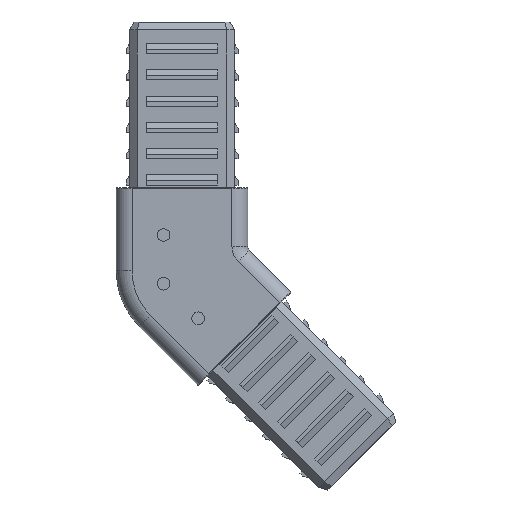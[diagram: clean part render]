
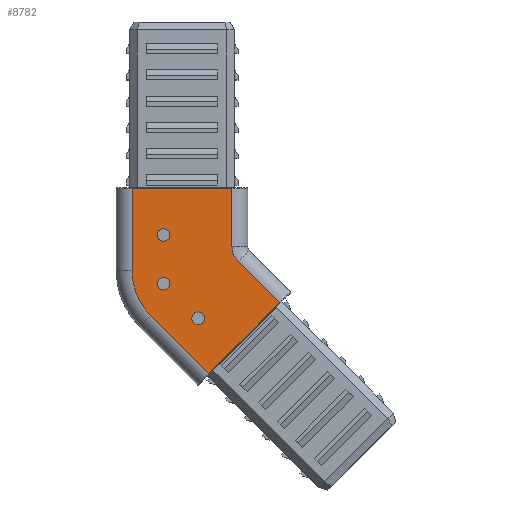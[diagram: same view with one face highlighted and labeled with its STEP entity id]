
A CAD part, top view. The second image highlights one B-rep face of the part: STEP entity #8782.
In plain terms, the highlighted planar face has unit normal (0, 0, 1).
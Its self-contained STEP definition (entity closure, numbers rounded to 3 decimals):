
#52 = EDGE_CURVE ( 'NONE', #4533, #11156, #8072, .T. ) ;
#82 = CARTESIAN_POINT ( 'NONE',  ( -3.5, -0.772, 12.5 ) ) ;
#84 = AXIS2_PLACEMENT_3D ( 'NONE', #9088, #10155, #9171 ) ;
#153 = CARTESIAN_POINT ( 'NONE',  ( 2.5, 1.713, 12.5 ) ) ;
#206 = CARTESIAN_POINT ( 'NONE',  ( 3.056, -7.328, 12.5 ) ) ;
#304 = DIRECTION ( 'NONE',  ( 0., -1., 0. ) ) ;
#419 = EDGE_CURVE ( 'NONE', #1189, #7091, #3990, .T. ) ;
#448 = DIRECTION ( 'NONE',  ( 0., 0., -1. ) ) ;
#513 = DIRECTION ( 'NONE',  ( -0.707, 0.707, 0. ) ) ;
#536 = CARTESIAN_POINT ( 'NONE',  ( -9.5, 17.35, 12.5 ) ) ;
#641 = DIRECTION ( 'NONE',  ( 0., 0., -1. ) ) ;
#813 = VERTEX_POINT ( 'NONE', #2867 ) ;
#826 = VERTEX_POINT ( 'NONE', #6850 ) ;
#910 = EDGE_LOOP ( 'NONE', ( #7392, #10054 ) ) ;
#957 = VECTOR ( 'NONE', #4983, 1000. ) ;
#1136 = FACE_BOUND ( 'NONE', #4755, .T. ) ;
#1189 = VERTEX_POINT ( 'NONE', #12219 ) ;
#1191 = CARTESIAN_POINT ( 'NONE',  ( -9.5, 0., 12.5 ) ) ;
#1192 = DIRECTION ( 'NONE',  ( 0., 0., 1. ) ) ;
#1323 = EDGE_CURVE ( 'NONE', #9034, #12252, #4389, .T. ) ;
#1386 = VECTOR ( 'NONE', #513, 1000. ) ;
#1462 = CARTESIAN_POINT ( 'NONE',  ( -2.3, -0.772, 12.5 ) ) ;
#1497 = AXIS2_PLACEMENT_3D ( 'NONE', #9986, #641, #9007 ) ;
#1562 = CIRCLE ( 'NONE', #3263, 1.2 ) ;
#1667 = ORIENTED_EDGE ( 'NONE', *, *, #3022, .F. ) ;
#1682 = AXIS2_PLACEMENT_3D ( 'NONE', #7840, #448, #9828 ) ;
#1803 = CIRCLE ( 'NONE', #4505, 12. ) ;
#1951 = CARTESIAN_POINT ( 'NONE',  ( 9.5, 0., 12.5 ) ) ;
#2093 = CIRCLE ( 'NONE', #84, 1.2 ) ;
#2134 = DIRECTION ( 'NONE',  ( -1., 0., 0. ) ) ;
#2154 = VECTOR ( 'NONE', #304, 1000. ) ;
#2339 = DIRECTION ( 'NONE',  ( 1., 0., 0. ) ) ;
#2384 = CARTESIAN_POINT ( 'NONE',  ( -4.7, -0.772, 12.5 ) ) ;
#2867 = CARTESIAN_POINT ( 'NONE',  ( 10.672, 3.441, 12.5 ) ) ;
#3022 = EDGE_CURVE ( 'NONE', #11156, #4533, #2093, .T. ) ;
#3263 = AXIS2_PLACEMENT_3D ( 'NONE', #82, #8736, #3847 ) ;
#3469 = CARTESIAN_POINT ( 'NONE',  ( -3.5, -0.772, 12.5 ) ) ;
#3575 = CARTESIAN_POINT ( 'NONE',  ( -4.7, 8.5, 12.5 ) ) ;
#3668 = EDGE_CURVE ( 'NONE', #12070, #8907, #1562, .T. ) ;
#3822 = AXIS2_PLACEMENT_3D ( 'NONE', #206, #11725, #8762 ) ;
#3847 = DIRECTION ( 'NONE',  ( 1., 0., 0. ) ) ;
#3938 = VECTOR ( 'NONE', #5743, 1000. ) ;
#3990 = LINE ( 'NONE', #9678, #6237 ) ;
#4210 = EDGE_CURVE ( 'NONE', #7688, #5985, #5183, .T. ) ;
#4233 = ORIENTED_EDGE ( 'NONE', *, *, #52, .F. ) ;
#4358 = CARTESIAN_POINT ( 'NONE',  ( -3.5, 8.5, 12.5 ) ) ;
#4389 = LINE ( 'NONE', #6587, #3938 ) ;
#4458 = CIRCLE ( 'NONE', #9756, 1.2 ) ;
#4505 = AXIS2_PLACEMENT_3D ( 'NONE', #153, #4965, #2134 ) ;
#4509 = CIRCLE ( 'NONE', #1497, 4. ) ;
#4533 = VERTEX_POINT ( 'NONE', #4790 ) ;
#4539 = LINE ( 'NONE', #1951, #11026 ) ;
#4604 = FACE_BOUND ( 'NONE', #910, .T. ) ;
#4695 = EDGE_CURVE ( 'NONE', #12252, #813, #6496, .T. ) ;
#4755 = EDGE_LOOP ( 'NONE', ( #9772, #5628 ) ) ;
#4774 = ORIENTED_EDGE ( 'NONE', *, *, #9346, .T. ) ;
#4790 = CARTESIAN_POINT ( 'NONE',  ( -2.3, 8.5, 12.5 ) ) ;
#4823 = ORIENTED_EDGE ( 'NONE', *, *, #6650, .T. ) ;
#4876 = LINE ( 'NONE', #9816, #957 ) ;
#4965 = DIRECTION ( 'NONE',  ( 0., 0., 1. ) ) ;
#4983 = DIRECTION ( 'NONE',  ( 0.707, -0.707, 0. ) ) ;
#5183 = CIRCLE ( 'NONE', #3822, 1.2 ) ;
#5307 = ORIENTED_EDGE ( 'NONE', *, *, #1323, .T. ) ;
#5359 = ORIENTED_EDGE ( 'NONE', *, *, #5368, .T. ) ;
#5368 = EDGE_CURVE ( 'NONE', #813, #10357, #4509, .T. ) ;
#5396 = EDGE_LOOP ( 'NONE', ( #4233, #1667 ) ) ;
#5628 = ORIENTED_EDGE ( 'NONE', *, *, #3668, .F. ) ;
#5642 = ORIENTED_EDGE ( 'NONE', *, *, #10333, .T. ) ;
#5743 = DIRECTION ( 'NONE',  ( 0.707, 0.707, 0. ) ) ;
#5985 = VERTEX_POINT ( 'NONE', #11395 ) ;
#6159 = EDGE_CURVE ( 'NONE', #5985, #7688, #11402, .T. ) ;
#6237 = VECTOR ( 'NONE', #7648, 1000. ) ;
#6255 = FACE_BOUND ( 'NONE', #5396, .T. ) ;
#6496 = LINE ( 'NONE', #9238, #1386 ) ;
#6587 = CARTESIAN_POINT ( 'NONE',  ( 11.45, -11.45, 12.5 ) ) ;
#6650 = EDGE_CURVE ( 'NONE', #6909, #826, #1803, .T. ) ;
#6850 = CARTESIAN_POINT ( 'NONE',  ( -5.985, -6.772, 12.5 ) ) ;
#6909 = VERTEX_POINT ( 'NONE', #10963 ) ;
#7021 = FACE_OUTER_BOUND ( 'NONE', #8166, .T. ) ;
#7091 = VERTEX_POINT ( 'NONE', #536 ) ;
#7392 = ORIENTED_EDGE ( 'NONE', *, *, #4210, .F. ) ;
#7648 = DIRECTION ( 'NONE',  ( -1., 0., 0. ) ) ;
#7669 = DIRECTION ( 'NONE',  ( 0., 1., 0. ) ) ;
#7688 = VERTEX_POINT ( 'NONE', #9321 ) ;
#7831 = CARTESIAN_POINT ( 'NONE',  ( 3.056, -7.328, 12.5 ) ) ;
#7840 = CARTESIAN_POINT ( 'NONE',  ( 0., 0., 12.5 ) ) ;
#8072 = CIRCLE ( 'NONE', #10394, 1.2 ) ;
#8166 = EDGE_LOOP ( 'NONE', ( #5642, #9244, #12184, #4823, #4774, #5307, #10799, #5359 ) ) ;
#8169 = EDGE_CURVE ( 'NONE', #8907, #12070, #4458, .T. ) ;
#8736 = DIRECTION ( 'NONE',  ( 0., 0., 1. ) ) ;
#8762 = DIRECTION ( 'NONE',  ( 1., 0., 0. ) ) ;
#8782 = ADVANCED_FACE ( 'NONE', ( #6255, #4604, #1136, #7021 ), #11745, .F. ) ;
#8860 = DIRECTION ( 'NONE',  ( 1., 0., 0. ) ) ;
#8907 = VERTEX_POINT ( 'NONE', #1462 ) ;
#9007 = DIRECTION ( 'NONE',  ( -1., 0., 0. ) ) ;
#9034 = VERTEX_POINT ( 'NONE', #11475 ) ;
#9088 = CARTESIAN_POINT ( 'NONE',  ( -3.5, 8.5, 12.5 ) ) ;
#9117 = LINE ( 'NONE', #1191, #2154 ) ;
#9171 = DIRECTION ( 'NONE',  ( 1., 0., 0. ) ) ;
#9181 = AXIS2_PLACEMENT_3D ( 'NONE', #7831, #1192, #8860 ) ;
#9238 = CARTESIAN_POINT ( 'NONE',  ( 7.056, 7.056, 12.5 ) ) ;
#9244 = ORIENTED_EDGE ( 'NONE', *, *, #419, .T. ) ;
#9321 = CARTESIAN_POINT ( 'NONE',  ( 4.256, -7.328, 12.5 ) ) ;
#9346 = EDGE_CURVE ( 'NONE', #826, #9034, #4876, .T. ) ;
#9353 = EDGE_CURVE ( 'NONE', #7091, #6909, #9117, .T. ) ;
#9678 = CARTESIAN_POINT ( 'NONE',  ( 0., 17.35, 12.5 ) ) ;
#9756 = AXIS2_PLACEMENT_3D ( 'NONE', #3469, #10186, #2339 ) ;
#9772 = ORIENTED_EDGE ( 'NONE', *, *, #8169, .F. ) ;
#9816 = CARTESIAN_POINT ( 'NONE',  ( -6.379, -6.379, 12.5 ) ) ;
#9828 = DIRECTION ( 'NONE',  ( -1., 0., 0. ) ) ;
#9986 = CARTESIAN_POINT ( 'NONE',  ( 13.5, 6.27, 12.5 ) ) ;
#10054 = ORIENTED_EDGE ( 'NONE', *, *, #6159, .F. ) ;
#10155 = DIRECTION ( 'NONE',  ( 0., 0., 1. ) ) ;
#10186 = DIRECTION ( 'NONE',  ( 0., 0., 1. ) ) ;
#10333 = EDGE_CURVE ( 'NONE', #10357, #1189, #4539, .T. ) ;
#10357 = VERTEX_POINT ( 'NONE', #12505 ) ;
#10394 = AXIS2_PLACEMENT_3D ( 'NONE', #4358, #11085, #12113 ) ;
#10579 = CARTESIAN_POINT ( 'NONE',  ( 18.507, -4.394, 12.5 ) ) ;
#10799 = ORIENTED_EDGE ( 'NONE', *, *, #4695, .T. ) ;
#10963 = CARTESIAN_POINT ( 'NONE',  ( -9.5, 1.713, 12.5 ) ) ;
#11026 = VECTOR ( 'NONE', #7669, 1000. ) ;
#11085 = DIRECTION ( 'NONE',  ( 0., 0., 1. ) ) ;
#11156 = VERTEX_POINT ( 'NONE', #3575 ) ;
#11395 = CARTESIAN_POINT ( 'NONE',  ( 1.856, -7.328, 12.5 ) ) ;
#11402 = CIRCLE ( 'NONE', #9181, 1.2 ) ;
#11475 = CARTESIAN_POINT ( 'NONE',  ( 5.072, -17.829, 12.5 ) ) ;
#11725 = DIRECTION ( 'NONE',  ( 0., 0., 1. ) ) ;
#11745 = PLANE ( 'NONE',  #1682 ) ;
#12070 = VERTEX_POINT ( 'NONE', #2384 ) ;
#12113 = DIRECTION ( 'NONE',  ( 1., 0., 0. ) ) ;
#12184 = ORIENTED_EDGE ( 'NONE', *, *, #9353, .T. ) ;
#12219 = CARTESIAN_POINT ( 'NONE',  ( 9.5, 17.35, 12.5 ) ) ;
#12252 = VERTEX_POINT ( 'NONE', #10579 ) ;
#12505 = CARTESIAN_POINT ( 'NONE',  ( 9.5, 6.27, 12.5 ) ) ;
